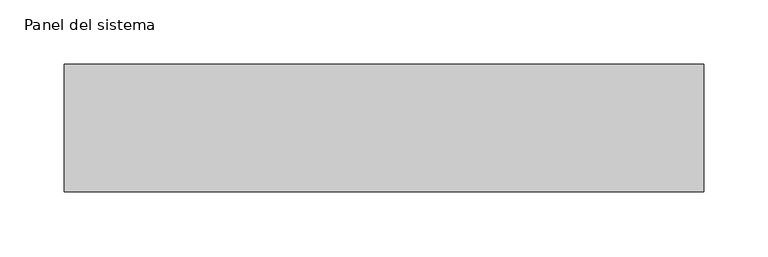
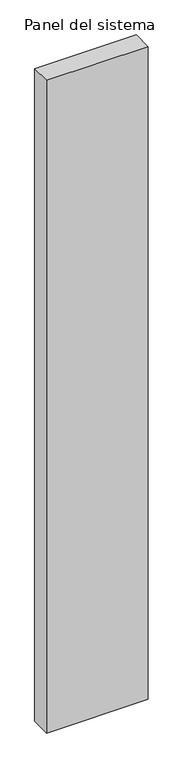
"""IFC4 building model written with IfcOpenShell, lengths in millimetres: plate geometry, Panel del sistema : HIANSA PANEL - PANELES DE CUBIERTA CON TAPAJUNTA - CUB 3GR - Esp. 100mm."""

from ifc_helpers import new_model, si_unit, origin, origin_with_axes, place, context, project, spatial, polyline, outline, extrude, source, transform, mapped, element, save


def panel_del_sistema_156d538e(model_context):
    return source(origin(), model_context, "Body", "SweptSolid", [
        extrude(outline(polyline([(249.9999998, 0.0), (-249.9999998, 0.0), (-249.9999998, 100.0), (249.9999998, 100.0), (249.9999998, 0.0)])), origin_with_axes(), (0.0, 0.0, 1.0), 3390.8509027),
    ])


if __name__ == "__main__":
    model = new_model("IFC4")
    model_context = context("Model", 3, world=origin())
    ifc_project = project(units=[si_unit("LENGTHUNIT", "METRE", prefix="MILLI")], contexts=[model_context])
    site = spatial("IfcSite", under=ifc_project)
    building = spatial("IfcBuilding", under=site)
    placement = place(None, origin())
    panel_del_sistema_shape = panel_del_sistema_156d538e(model_context)
    element("IfcPlate", 1, ObjectType="Panel del sistema : HIANSA PANEL - PANELES DE CUBIERTA CON TAPAJUNTA - CUB 3GR - Esp. 100mm", at=placement, inside=building, context=model_context, shape_type="MappedRepresentation", body=[
        mapped(panel_del_sistema_shape, transform((0.0, 0.0, 0.0), x_axis=(1.0, 0.0, 0.0), y_axis=(0.0, 1.0, 0.0), z_axis=(0.0, 0.0, 1.0))),
    ])
    save(model, "model.ifc")
